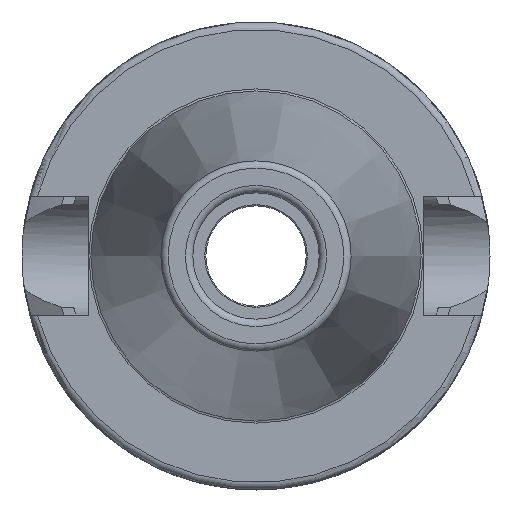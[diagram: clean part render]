
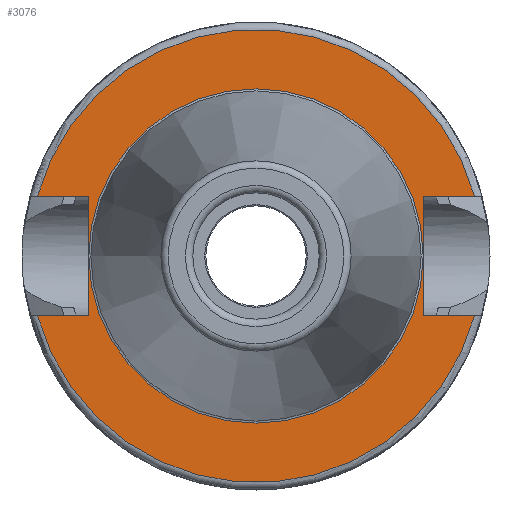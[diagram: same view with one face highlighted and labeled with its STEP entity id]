
A CAD part, left-side view. The second image highlights one B-rep face of the part: STEP entity #3076.
In plain terms, the highlighted planar face has unit normal (-1, 0, 0).
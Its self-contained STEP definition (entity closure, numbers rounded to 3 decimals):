
#132=FACE_BOUND('',#896,.T.);
#156=PLANE('',#3398);
#273=LINE('',#4786,#460);
#277=LINE('',#4836,#464);
#282=LINE('',#4848,#469);
#291=LINE('',#4953,#478);
#292=LINE('',#4955,#479);
#293=LINE('',#4956,#480);
#460=VECTOR('',#3849,10.);
#464=VECTOR('',#3859,10.);
#469=VECTOR('',#3866,10.);
#478=VECTOR('',#3933,10.);
#479=VECTOR('',#3934,10.);
#480=VECTOR('',#3935,10.);
#716=FACE_OUTER_BOUND('',#895,.T.);
#895=EDGE_LOOP('',(#2298,#2299,#2300,#2301,#2302,#2303,#2304,#2305));
#896=EDGE_LOOP('',(#2306,#2307));
#1108=CIRCLE('',#3395,30.5);
#1109=CIRCLE('',#3397,30.5);
#1110=CIRCLE('',#3399,22.5);
#1111=CIRCLE('',#3400,22.5);
#1299=VERTEX_POINT('',#4761);
#1305=VERTEX_POINT('',#4784);
#1312=VERTEX_POINT('',#4823);
#1314=VERTEX_POINT('',#4835);
#1332=VERTEX_POINT('',#4926);
#1333=VERTEX_POINT('',#4939);
#1334=VERTEX_POINT('',#4952);
#1335=VERTEX_POINT('',#4954);
#1336=VERTEX_POINT('',#4957);
#1337=VERTEX_POINT('',#4958);
#1654=EDGE_CURVE('',#1299,#1305,#273,.T.);
#1664=EDGE_CURVE('',#1314,#1312,#277,.T.);
#1670=EDGE_CURVE('',#1305,#1314,#282,.T.);
#1698=EDGE_CURVE('',#1332,#1312,#1108,.T.);
#1699=EDGE_CURVE('',#1299,#1333,#1109,.T.);
#1701=EDGE_CURVE('',#1332,#1334,#291,.T.);
#1702=EDGE_CURVE('',#1334,#1335,#292,.T.);
#1703=EDGE_CURVE('',#1335,#1333,#293,.T.);
#1704=EDGE_CURVE('',#1336,#1337,#1110,.T.);
#1705=EDGE_CURVE('',#1337,#1336,#1111,.T.);
#2298=ORIENTED_EDGE('',*,*,#1654,.T.);
#2299=ORIENTED_EDGE('',*,*,#1670,.T.);
#2300=ORIENTED_EDGE('',*,*,#1664,.T.);
#2301=ORIENTED_EDGE('',*,*,#1698,.F.);
#2302=ORIENTED_EDGE('',*,*,#1701,.T.);
#2303=ORIENTED_EDGE('',*,*,#1702,.T.);
#2304=ORIENTED_EDGE('',*,*,#1703,.T.);
#2305=ORIENTED_EDGE('',*,*,#1699,.F.);
#2306=ORIENTED_EDGE('',*,*,#1704,.T.);
#2307=ORIENTED_EDGE('',*,*,#1705,.T.);
#3076=ADVANCED_FACE('',(#716,#132),#156,.T.);
#3395=AXIS2_PLACEMENT_3D('',#4937,#3925,#3926);
#3397=AXIS2_PLACEMENT_3D('',#4940,#3929,#3930);
#3398=AXIS2_PLACEMENT_3D('',#4951,#3931,#3932);
#3399=AXIS2_PLACEMENT_3D('',#4959,#3936,#3937);
#3400=AXIS2_PLACEMENT_3D('',#4960,#3938,#3939);
#3849=DIRECTION('',(0.,1.,0.));
#3859=DIRECTION('',(0.,-1.,0.));
#3866=DIRECTION('',(0.,0.,1.));
#3925=DIRECTION('center_axis',(1.,0.,0.));
#3926=DIRECTION('ref_axis',(0.,0.,-1.));
#3929=DIRECTION('center_axis',(1.,0.,0.));
#3930=DIRECTION('ref_axis',(0.,0.,-1.));
#3931=DIRECTION('center_axis',(-1.,0.,0.));
#3932=DIRECTION('ref_axis',(0.,0.,1.));
#3933=DIRECTION('',(0.,-1.,0.));
#3934=DIRECTION('',(0.,0.,-1.));
#3935=DIRECTION('',(0.,1.,0.));
#3936=DIRECTION('center_axis',(1.,0.,0.));
#3937=DIRECTION('ref_axis',(0.,0.,-1.));
#3938=DIRECTION('center_axis',(1.,0.,0.));
#3939=DIRECTION('ref_axis',(0.,0.,-1.));
#4761=CARTESIAN_POINT('',(2.,-29.418,-8.05));
#4784=CARTESIAN_POINT('',(2.,-22.6,-8.05));
#4786=CARTESIAN_POINT('',(2.,3.95,-8.05));
#4823=CARTESIAN_POINT('',(2.,-29.418,8.05));
#4835=CARTESIAN_POINT('',(2.,-22.6,8.05));
#4836=CARTESIAN_POINT('',(2.,3.95,8.05));
#4848=CARTESIAN_POINT('',(2.,-22.6,0.));
#4926=CARTESIAN_POINT('',(2.,29.418,8.05));
#4937=CARTESIAN_POINT('Origin',(2.,0.,0.));
#4939=CARTESIAN_POINT('',(2.,29.418,-8.05));
#4940=CARTESIAN_POINT('Origin',(2.,0.,0.));
#4951=CARTESIAN_POINT('Origin',(2.,30.5,0.));
#4952=CARTESIAN_POINT('',(2.,22.6,8.05));
#4953=CARTESIAN_POINT('',(2.,26.55,8.05));
#4954=CARTESIAN_POINT('',(2.,22.6,-8.05));
#4955=CARTESIAN_POINT('',(2.,22.6,0.));
#4956=CARTESIAN_POINT('',(2.,26.55,-8.05));
#4957=CARTESIAN_POINT('',(2.,22.5,0.));
#4958=CARTESIAN_POINT('',(2.,0.,22.5));
#4959=CARTESIAN_POINT('Origin',(2.,0.,0.));
#4960=CARTESIAN_POINT('Origin',(2.,0.,0.));
